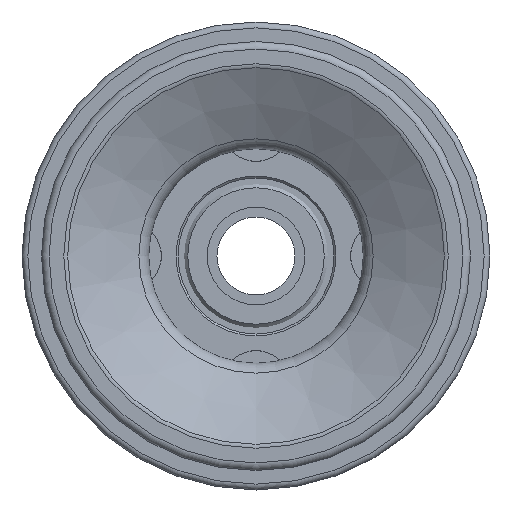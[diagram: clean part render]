
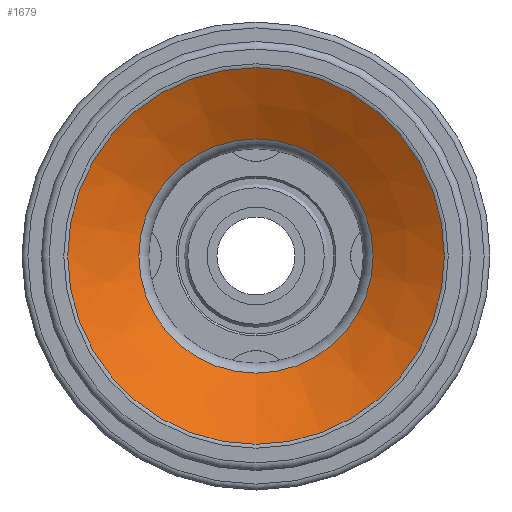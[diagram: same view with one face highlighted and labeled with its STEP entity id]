
A CAD part, front view. The second image highlights one B-rep face of the part: STEP entity #1679.
In plain terms, the highlighted conical face has half-angle 60.358 degrees and reference radius 6.005 mm.
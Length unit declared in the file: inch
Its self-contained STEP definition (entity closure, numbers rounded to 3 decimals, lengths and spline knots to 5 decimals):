
#33 = DIRECTION ( 'NONE',  ( 0., 0., -1. ) ) ;
#183 = CARTESIAN_POINT ( 'NONE',  ( 36.72742, 38.17365, -0.23643 ) ) ;
#301 = EDGE_LOOP ( 'NONE', ( #916 ) ) ;
#530 = CIRCLE ( 'NONE', #1439, 0.23643 ) ;
#550 = CARTESIAN_POINT ( 'NONE',  ( 36.72742, 38.17365, 0. ) ) ;
#592 = CARTESIAN_POINT ( 'NONE',  ( 36.72742, 38.09182, 0. ) ) ;
#916 = ORIENTED_EDGE ( 'NONE', *, *, #2210, .T. ) ;
#1027 = DIRECTION ( 'NONE',  ( 0., -1., 0. ) ) ;
#1075 = DIRECTION ( 'NONE',  ( 0., -1., 0. ) ) ;
#1084 = AXIS2_PLACEMENT_3D ( 'NONE', #550, #1075, #2573 ) ;
#1389 = CIRCLE ( 'NONE', #2056, 0.38024 ) ;
#1404 = EDGE_CURVE ( 'NONE', #1968, #1968, #530, .T. ) ;
#1439 = AXIS2_PLACEMENT_3D ( 'NONE', #1628, #2430, #2070 ) ;
#1628 = CARTESIAN_POINT ( 'NONE',  ( 36.72742, 38.17365, 0. ) ) ;
#1679 = ADVANCED_FACE ( 'NONE', ( #1727, #2528 ), #2220, .F. ) ;
#1727 = FACE_OUTER_BOUND ( 'NONE', #301, .T. ) ;
#1814 = VERTEX_POINT ( 'NONE', #1995 ) ;
#1965 = EDGE_LOOP ( 'NONE', ( #2527 ) ) ;
#1968 = VERTEX_POINT ( 'NONE', #183 ) ;
#1995 = CARTESIAN_POINT ( 'NONE',  ( 36.72742, 38.09182, -0.38024 ) ) ;
#2056 = AXIS2_PLACEMENT_3D ( 'NONE', #592, #1027, #33 ) ;
#2070 = DIRECTION ( 'NONE',  ( 0., 0., -1. ) ) ;
#2210 = EDGE_CURVE ( 'NONE', #1814, #1814, #1389, .T. ) ;
#2220 = CONICAL_SURFACE ( 'NONE', #1084, 0.23643, 1.053 ) ;
#2430 = DIRECTION ( 'NONE',  ( 0., -1., 0. ) ) ;
#2527 = ORIENTED_EDGE ( 'NONE', *, *, #1404, .F. ) ;
#2528 = FACE_BOUND ( 'NONE', #1965, .T. ) ;
#2573 = DIRECTION ( 'NONE',  ( 0., 0., -1. ) ) ;
